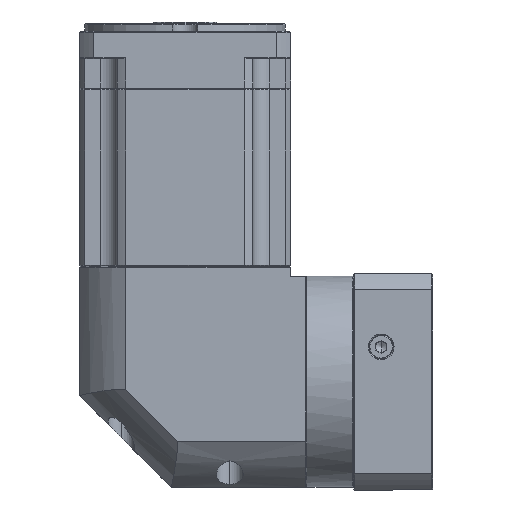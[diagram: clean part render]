
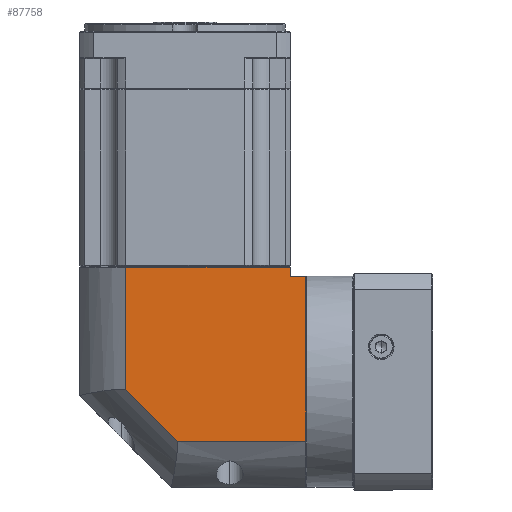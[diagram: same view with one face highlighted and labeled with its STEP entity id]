
A CAD part, left-side view. The second image highlights one B-rep face of the part: STEP entity #87758.
In plain terms, the highlighted planar face has unit normal (-1, 0, 0).
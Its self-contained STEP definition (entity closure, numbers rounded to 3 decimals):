
#4313 = LINE ( 'NONE', #95557, #73491 ) ;
#4712 = DIRECTION ( 'NONE',  ( 0., 1., 0. ) ) ;
#5964 = CARTESIAN_POINT ( 'NONE',  ( -232.004, -67.467, 7.551 ) ) ;
#9242 = DIRECTION ( 'NONE',  ( 0., 0.707, 0.707 ) ) ;
#14875 = EDGE_CURVE ( 'NONE', #62247, #119262, #37503, .T. ) ;
#17025 = VERTEX_POINT ( 'NONE', #109529 ) ;
#18115 = CARTESIAN_POINT ( 'NONE',  ( -232.004, 47.533, 134.051 ) ) ;
#19238 = CARTESIAN_POINT ( 'NONE',  ( -232.004, -67.467, 127.551 ) ) ;
#23449 = CARTESIAN_POINT ( 'NONE',  ( -232.004, 47.533, 32.651 ) ) ;
#26228 = EDGE_CURVE ( 'NONE', #62247, #120182, #4313, .T. ) ;
#29526 = LINE ( 'NONE', #40447, #129041 ) ;
#31153 = DIRECTION ( 'NONE',  ( 0., 1., 0. ) ) ;
#37161 = ORIENTED_EDGE ( 'NONE', *, *, #76133, .F. ) ;
#37503 = LINE ( 'NONE', #93575, #76184 ) ;
#40447 = CARTESIAN_POINT ( 'NONE',  ( -232.004, 22.433, 134.051 ) ) ;
#41388 = PLANE ( 'NONE',  #42927 ) ;
#42927 = AXIS2_PLACEMENT_3D ( 'NONE', #18115, #108952, #31153 ) ;
#52807 = EDGE_CURVE ( 'NONE', #83434, #17025, #29526, .T. ) ;
#53547 = DIRECTION ( 'NONE',  ( 0., 0., 1. ) ) ;
#55163 = CARTESIAN_POINT ( 'NONE',  ( -232.004, -67.467, 122.551 ) ) ;
#59267 = VECTOR ( 'NONE', #132859, 1000. ) ;
#62247 = VERTEX_POINT ( 'NONE', #105076 ) ;
#62503 = VERTEX_POINT ( 'NONE', #19238 ) ;
#63113 = LINE ( 'NONE', #23449, #109849 ) ;
#63292 = LINE ( 'NONE', #145818, #59267 ) ;
#64666 = ORIENTED_EDGE ( 'NONE', *, *, #94659, .F. ) ;
#70171 = ORIENTED_EDGE ( 'NONE', *, *, #52807, .F. ) ;
#73491 = VECTOR ( 'NONE', #4712, 1000. ) ;
#76133 = EDGE_CURVE ( 'NONE', #119262, #89950, #63113, .T. ) ;
#76184 = VECTOR ( 'NONE', #106634, 1000. ) ;
#83190 = ORIENTED_EDGE ( 'NONE', *, *, #26228, .T. ) ;
#83434 = VERTEX_POINT ( 'NONE', #111189 ) ;
#83826 = DIRECTION ( 'NONE',  ( 0., 0., 1. ) ) ;
#87758 = ADVANCED_FACE ( 'NONE', ( #138860 ), #41388, .F. ) ;
#89950 = VERTEX_POINT ( 'NONE', #136154 ) ;
#92272 = EDGE_LOOP ( 'NONE', ( #70171, #121793, #37161, #154031, #83190, #160291, #64666 ) ) ;
#93575 = CARTESIAN_POINT ( 'NONE',  ( -232.004, -75.867, 134.051 ) ) ;
#94659 = EDGE_CURVE ( 'NONE', #17025, #62503, #63292, .T. ) ;
#95557 = CARTESIAN_POINT ( 'NONE',  ( -232.004, -67.467, 122.551 ) ) ;
#99160 = VECTOR ( 'NONE', #9242, 1000. ) ;
#105076 = CARTESIAN_POINT ( 'NONE',  ( -232.004, -75.867, 122.551 ) ) ;
#106634 = DIRECTION ( 'NONE',  ( 0., 0., -1. ) ) ;
#108952 = DIRECTION ( 'NONE',  ( 1., 0., 0. ) ) ;
#109529 = CARTESIAN_POINT ( 'NONE',  ( -232.004, 22.433, 127.551 ) ) ;
#109849 = VECTOR ( 'NONE', #114262, 1000. ) ;
#111189 = CARTESIAN_POINT ( 'NONE',  ( -232.004, 22.433, 60.989 ) ) ;
#113629 = VECTOR ( 'NONE', #83826, 1000. ) ;
#114262 = DIRECTION ( 'NONE',  ( 0., 1., 0. ) ) ;
#119262 = VERTEX_POINT ( 'NONE', #120352 ) ;
#120182 = VERTEX_POINT ( 'NONE', #55163 ) ;
#120352 = CARTESIAN_POINT ( 'NONE',  ( -232.004, -75.867, 32.651 ) ) ;
#121793 = ORIENTED_EDGE ( 'NONE', *, *, #158937, .F. ) ;
#129041 = VECTOR ( 'NONE', #53547, 1000. ) ;
#132859 = DIRECTION ( 'NONE',  ( 0., -1., 0. ) ) ;
#136154 = CARTESIAN_POINT ( 'NONE',  ( -232.004, -5.905, 32.651 ) ) ;
#137929 = EDGE_CURVE ( 'NONE', #120182, #62503, #148096, .T. ) ;
#138860 = FACE_OUTER_BOUND ( 'NONE', #92272, .T. ) ;
#145818 = CARTESIAN_POINT ( 'NONE',  ( -232.004, 47.533, 127.551 ) ) ;
#148096 = LINE ( 'NONE', #5964, #113629 ) ;
#150526 = CARTESIAN_POINT ( 'NONE',  ( -232.004, -5.905, 32.651 ) ) ;
#154031 = ORIENTED_EDGE ( 'NONE', *, *, #14875, .F. ) ;
#158937 = EDGE_CURVE ( 'NONE', #89950, #83434, #168119, .T. ) ;
#160291 = ORIENTED_EDGE ( 'NONE', *, *, #137929, .T. ) ;
#168119 = LINE ( 'NONE', #150526, #99160 ) ;
